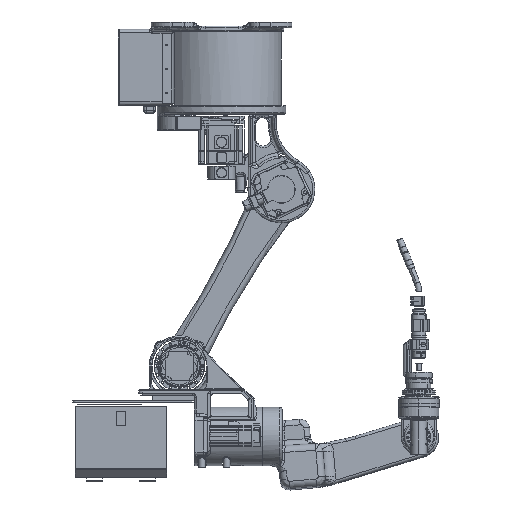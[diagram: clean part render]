
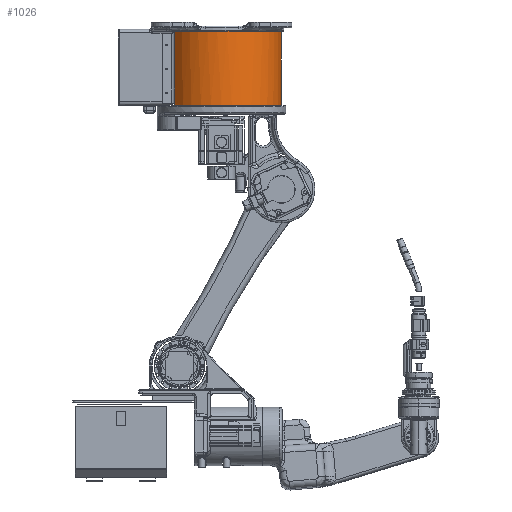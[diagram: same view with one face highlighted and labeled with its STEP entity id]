
A CAD part, front view. The second image highlights one B-rep face of the part: STEP entity #1026.
In plain terms, the highlighted cylindrical face has radius 170 mm (diameter 340 mm), a partial arc.
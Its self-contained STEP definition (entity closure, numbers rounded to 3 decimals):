
#179=CARTESIAN_POINT('',(-1089.064,0.,68.));
#180=DIRECTION('',(0.,0.,1.));
#181=DIRECTION('',(-0.769,-0.639,0.));
#182=AXIS2_PLACEMENT_3D('',#179,#180,#181);
#207=DIRECTION('',(0.,0.,1.));
#208=VECTOR('',#207,3.5);
#209=CARTESIAN_POINT('',(-1221.773,-106.247,71.));
#210=LINE('',#209,#208);
#211=CARTESIAN_POINT('',(-1221.773,-106.247,71.));
#212=CARTESIAN_POINT('',(-1221.773,-106.247,70.689));
#213=CARTESIAN_POINT('',(-1221.712,-106.323,70.064));
#214=CARTESIAN_POINT('',(-1221.442,-106.66,69.21));
#215=CARTESIAN_POINT('',(-1221.012,-107.191,68.528));
#216=CARTESIAN_POINT('',(-1220.473,-107.853,68.097));
#217=CARTESIAN_POINT('',(-1220.076,-108.333,68.));
#218=CARTESIAN_POINT('',(-1219.878,-108.572,68.));
#265=CARTESIAN_POINT('',(-1089.064,0.,280.));
#266=DIRECTION('',(0.,0.,-1.));
#267=DIRECTION('',(1.,0.,0.));
#268=AXIS2_PLACEMENT_3D('',#265,#266,#267);
#364=DIRECTION('',(0.,0.,1.));
#365=VECTOR('',#364,212.);
#366=CARTESIAN_POINT('',(-919.064,0.,68.));
#367=LINE('',#366,#365);
#394=DIRECTION('',(0.,0.,-1.));
#395=VECTOR('',#394,205.5);
#396=CARTESIAN_POINT('',(-1221.773,-106.247,280.));
#397=LINE('',#396,#395);
#721=CARTESIAN_POINT('',(-1219.878,-108.572,68.));
#722=CARTESIAN_POINT('',(-919.064,0.,68.));
#723=VERTEX_POINT('',#721);
#724=VERTEX_POINT('',#722);
#729=VERTEX_POINT('',#211);
#730=CARTESIAN_POINT('',(-1221.773,-106.247,74.5));
#731=VERTEX_POINT('',#730);
#732=CARTESIAN_POINT('',(-1221.773,-106.247,280.));
#733=VERTEX_POINT('',#732);
#734=CARTESIAN_POINT('',(-919.064,0.,280.));
#735=VERTEX_POINT('',#734);
#1008=CARTESIAN_POINT('',(-1089.064,0.,70.5));
#1009=DIRECTION('',(0.,0.,1.));
#1010=DIRECTION('',(1.,0.,0.));
#1011=AXIS2_PLACEMENT_3D('',#1008,#1009,#1010);
#1012=CYLINDRICAL_SURFACE('',#1011,170.);
#1013=ORIENTED_EDGE('',*,*,#994,.F.);
#1015=ORIENTED_EDGE('',*,*,#1014,.F.);
#1017=ORIENTED_EDGE('',*,*,#1016,.T.);
#1019=ORIENTED_EDGE('',*,*,#1018,.F.);
#1021=ORIENTED_EDGE('',*,*,#1020,.F.);
#1023=ORIENTED_EDGE('',*,*,#1022,.F.);
#1024=EDGE_LOOP('',(#1013,#1015,#1017,#1019,#1021,#1023));
#1025=FACE_OUTER_BOUND('',#1024,.F.);
#183=CIRCLE('',#182,170.);
#219=B_SPLINE_CURVE_WITH_KNOTS('',3,(#211,#212,#213,#214,#215,#216,#217,#218),
.UNSPECIFIED.,.F.,.F.,(4,1,1,1,1,4),(0.,0.2,0.4,0.6,0.8,1.),
.UNSPECIFIED.);
#269=CIRCLE('',#268,170.);
#994=EDGE_CURVE('',#723,#724,#183,.T.);
#1014=EDGE_CURVE('',#729,#723,#219,.T.);
#1016=EDGE_CURVE('',#729,#731,#210,.T.);
#1018=EDGE_CURVE('',#733,#731,#397,.T.);
#1020=EDGE_CURVE('',#735,#733,#269,.T.);
#1022=EDGE_CURVE('',#724,#735,#367,.T.);
#1026=ADVANCED_FACE('',(#1025),#1012,.T.);
